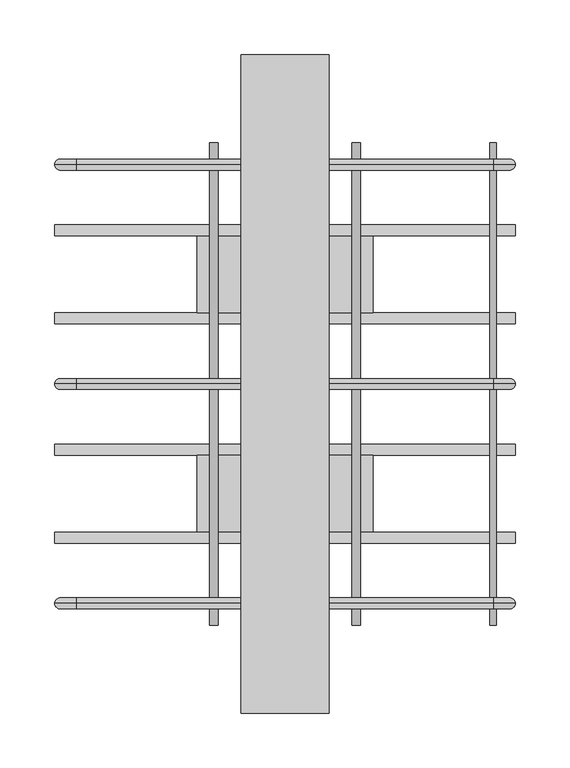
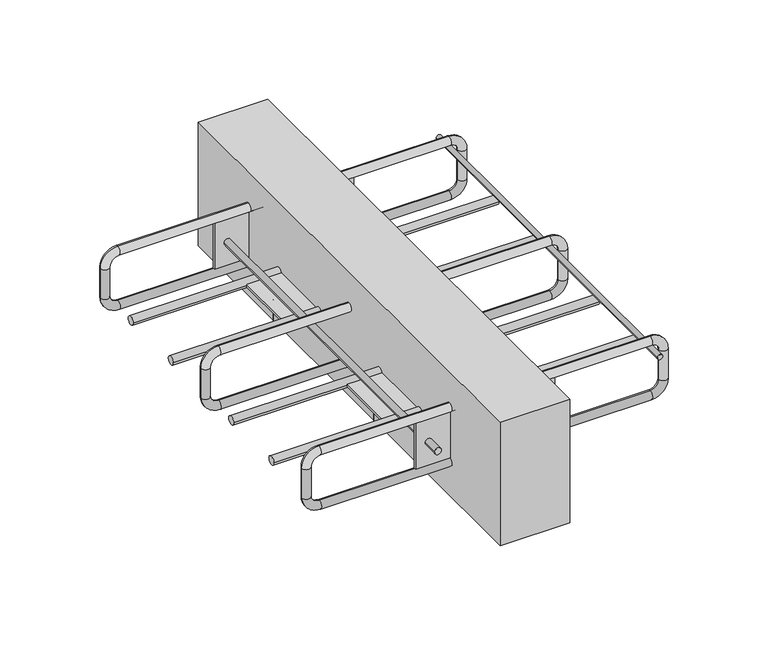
"""IFC4 building model written with IfcOpenShell, lengths in millimetres: proxy geometry, ACINOXplus_Typenreihe_UL-OL : OL+ S2."""

from ifc_helpers import new_model, si_unit, point, frame, frame_2d, origin, place, context, project, spatial, polyline, circle_curve, ellipse_curve, trimmed, segment, composite_curve, outline, extrude, source, transform, mapped, element, save
from ifc_brep_helpers import cylinder_surface, revolved_surface, advanced_brep


def generic_models_a2db3ab6(model_context):
    return source(origin(), model_context, "Body", "SolidModel", [
        extrude(outline(composite_curve([segment(trimmed(circle_curve(frame_2d((-50.0, 190.0)), 3.0), [point((-50.0, 193.0))], [point((-50.0, 187.0))], False, "CARTESIAN"), True, "CONTINUOUS"), segment(trimmed(circle_curve(frame_2d((-50.0, 190.0)), 3.0), [point((-50.0, 187.0))], [point((-50.0, 193.0))], False, "CARTESIAN"), True, "CONTINUOUS")], self_intersect=False)), frame((0.0, -220.0, 0.0), z_axis=(0.0, 1.0, 0.0), x_axis=(0.0, 0.0, 1.0)), (0.0, 0.0, 1.0), 440.0),
        extrude(outline(composite_curve([segment(trimmed(circle_curve(frame_2d((-140.0, -84.0)), 5.0), [point((-145.0, -84.0))], [point((-135.0, -84.0))], False, "CARTESIAN"), True, "CONTINUOUS"), segment(trimmed(circle_curve(frame_2d((-140.0, -84.0)), 5.0), [point((-135.0, -84.0))], [point((-145.0, -84.0))], False, "CARTESIAN"), True, "CONTINUOUS")], self_intersect=False)), frame((-210.0, 0.0, 0.0), z_axis=(1.0, 0.0, 0.0), x_axis=(0.0, 1.0, 0.0)), (0.0, 0.0, 1.0), 420.0),
        extrude(outline(composite_curve([segment(trimmed(circle_curve(frame_2d((-60.0, -84.0)), 5.0), [point((-65.0, -84.0))], [point((-55.0, -84.0))], False, "CARTESIAN"), True, "CONTINUOUS"), segment(trimmed(circle_curve(frame_2d((-60.0, -84.0)), 5.0), [point((-55.0, -84.0))], [point((-65.0, -84.0))], False, "CARTESIAN"), True, "CONTINUOUS")], self_intersect=False)), frame((-210.0, 0.0, 0.0), z_axis=(1.0, 0.0, 0.0), x_axis=(0.0, 1.0, 0.0)), (0.0, 0.0, 1.0), 420.0),
        extrude(outline(composite_curve([segment(trimmed(circle_curve(frame_2d((-65.0, -100.0)), 4.0), [point((-69.0, -100.0))], [point((-61.0, -100.0))], False, "CARTESIAN"), True, "CONTINUOUS"), segment(trimmed(circle_curve(frame_2d((-65.0, -100.0)), 4.0), [point((-61.0, -100.0))], [point((-69.0, -100.0))], False, "CARTESIAN"), True, "CONTINUOUS")], self_intersect=False)), frame((0.0, 0.0, -112.0), z_axis=(0.0, 0.0, 1.0), x_axis=(1.0, 0.0, 0.0)), (0.0, 0.0, 1.0), 26.5),
        extrude(outline(composite_curve([segment(trimmed(circle_curve(frame_2d((65.0, -100.0)), 4.0), [point((61.0, -100.0))], [point((69.0, -100.0))], False, "CARTESIAN"), True, "CONTINUOUS"), segment(trimmed(circle_curve(frame_2d((65.0, -100.0)), 4.0), [point((69.0, -100.0))], [point((61.0, -100.0))], False, "CARTESIAN"), True, "CONTINUOUS")], self_intersect=False)), frame((0.0, 0.0, -112.0), z_axis=(0.0, 0.0, 1.0), x_axis=(1.0, 0.0, 0.0)), (0.0, 0.0, 1.0), 26.5),
        extrude(outline(polyline([(80.0, -65.0), (80.0, -135.0), (-80.0, -135.0), (-80.0, -65.0), (80.0, -65.0)])), frame((0.0, 0.0, -85.5), z_axis=(0.0, 0.0, 1.0), x_axis=(1.0, 0.0, 0.0)), (0.0, 0.0, 1.0), 3.0),
        extrude(outline(composite_curve([segment(trimmed(circle_curve(frame_2d((60.0, -84.0)), 5.0), [point((55.0, -84.0))], [point((65.0, -84.0))], False, "CARTESIAN"), True, "CONTINUOUS"), segment(trimmed(circle_curve(frame_2d((60.0, -84.0)), 5.0), [point((65.0, -84.0))], [point((55.0, -84.0))], False, "CARTESIAN"), True, "CONTINUOUS")], self_intersect=False)), frame((-210.0, 0.0, 0.0), z_axis=(1.0, 0.0, 0.0), x_axis=(0.0, 1.0, 0.0)), (0.0, 0.0, 1.0), 420.0),
        extrude(outline(composite_curve([segment(trimmed(circle_curve(frame_2d((140.0, -84.0)), 5.0), [point((135.0, -84.0))], [point((145.0, -84.0))], False, "CARTESIAN"), True, "CONTINUOUS"), segment(trimmed(circle_curve(frame_2d((140.0, -84.0)), 5.0), [point((145.0, -84.0))], [point((135.0, -84.0))], False, "CARTESIAN"), True, "CONTINUOUS")], self_intersect=False)), frame((-210.0, 0.0, 0.0), z_axis=(1.0, 0.0, 0.0), x_axis=(0.0, 1.0, 0.0)), (0.0, 0.0, 1.0), 420.0),
        extrude(outline(composite_curve([segment(trimmed(circle_curve(frame_2d((-65.0, 100.0)), 4.0), [point((-69.0, 100.0))], [point((-61.0, 100.0))], False, "CARTESIAN"), True, "CONTINUOUS"), segment(trimmed(circle_curve(frame_2d((-65.0, 100.0)), 4.0), [point((-61.0, 100.0))], [point((-69.0, 100.0))], False, "CARTESIAN"), True, "CONTINUOUS")], self_intersect=False)), frame((0.0, 0.0, -112.0), z_axis=(0.0, 0.0, 1.0), x_axis=(1.0, 0.0, 0.0)), (0.0, 0.0, 1.0), 26.5),
        extrude(outline(composite_curve([segment(trimmed(circle_curve(frame_2d((65.0, 100.0)), 4.0), [point((61.0, 100.0))], [point((69.0, 100.0))], False, "CARTESIAN"), True, "CONTINUOUS"), segment(trimmed(circle_curve(frame_2d((65.0, 100.0)), 4.0), [point((69.0, 100.0))], [point((61.0, 100.0))], False, "CARTESIAN"), True, "CONTINUOUS")], self_intersect=False)), frame((0.0, 0.0, -112.0), z_axis=(0.0, 0.0, 1.0), x_axis=(1.0, 0.0, 0.0)), (0.0, 0.0, 1.0), 26.5),
        extrude(outline(polyline([(80.0, 135.0), (80.0, 65.0), (-80.0, 65.0), (-80.0, 135.0), (80.0, 135.0)])), frame((0.0, 0.0, -85.5), z_axis=(0.0, 0.0, 1.0), x_axis=(1.0, 0.0, 0.0)), (0.0, 0.0, 1.0), 3.0),
        extrude(outline(polyline([(40.0, 300.0), (40.0, -300.0), (-40.0, -300.0), (-40.0, 300.0), (40.0, 300.0)])), frame((0.0, 0.0, -150.0), z_axis=(0.0, 0.0, 1.0), x_axis=(1.0, 0.0, 0.0)), (0.0, 0.0, 1.0), 150.0),
        extrude(outline(composite_curve([segment(trimmed(circle_curve(frame_2d((-75.0, -65.0)), 4.0), [point((-75.0, -61.0))], [point((-75.0, -69.0))], False, "CARTESIAN"), True, "CONTINUOUS"), segment(trimmed(circle_curve(frame_2d((-75.0, -65.0)), 4.0), [point((-75.0, -69.0))], [point((-75.0, -61.0))], False, "CARTESIAN"), True, "CONTINUOUS")], self_intersect=False)), frame((0.0, -220.0, 0.0), z_axis=(0.0, 1.0, 0.0), x_axis=(0.0, 0.0, 1.0)), (0.0, 0.0, 1.0), 440.0),
        extrude(outline(composite_curve([segment(trimmed(circle_curve(frame_2d((-75.0, 65.0)), 4.0), [point((-75.0, 69.0))], [point((-75.0, 61.0))], False, "CARTESIAN"), True, "CONTINUOUS"), segment(trimmed(circle_curve(frame_2d((-75.0, 65.0)), 4.0), [point((-75.0, 61.0))], [point((-75.0, 69.0))], False, "CARTESIAN"), True, "CONTINUOUS")], self_intersect=False)), frame((0.0, -220.0, 0.0), z_axis=(0.0, 1.0, 0.0), x_axis=(0.0, 0.0, 1.0)), (0.0, 0.0, 1.0), 440.0),
        extrude(outline(polyline([(80.0, -198.5), (80.0, -201.5), (-80.0, -201.5), (-80.0, -198.5), (80.0, -198.5)])), frame((0.0, 0.0, -103.0), z_axis=(0.0, 0.0, 1.0), x_axis=(1.0, 0.0, 0.0)), (0.0, 0.0, 1.0), 56.0),
        extrude(outline(polyline([(80.0, 201.5), (80.0, 198.5), (-80.0, 198.5), (-80.0, 201.5), (80.0, 201.5)])), frame((0.0, 0.0, -103.0), z_axis=(0.0, 0.0, 1.0), x_axis=(1.0, 0.0, 0.0)), (0.0, 0.0, 1.0), 56.0),
        advanced_brep(
        [(190.0, 0.0, -47.0), (190.0, 0.0, -37.0), (-190.0, 0.0, -37.0), (-190.0, 0.0, -47.0), (-200.0, 0.0, -57.0), (-210.0, 0.0, -57.0), (-210.0, 0.0, -93.0), (-200.0, 0.0, -93.0), (-190.0, 0.0, -103.0), (-190.0, 0.0, -113.0), (190.0, 0.0, -113.0), (190.0, 0.0, -103.0), (200.0, 0.0, -93.0), (210.0, 0.0, -93.0), (210.0, 0.0, -57.0), (200.0, 0.0, -57.0)],
        [
            (0, 1, circle_curve(frame((190.0, 0.0, -42.0), z_axis=(-1.0, 0.0, 0.0), x_axis=(0.0, 0.0, -1.0)), 5.0)),
            (1, 2),
            (2, 3, circle_curve(frame((-190.0, 0.0, -42.0), z_axis=(1.0, 0.0, 0.0), x_axis=(0.0, 0.0, -1.0)), 5.0)),
            (3, 0),
            (1, 0, circle_curve(frame((190.0, 0.0, -42.0), z_axis=(-1.0, 0.0, 0.0), x_axis=(0.0, 0.0, -1.0)), 5.0)),
            (3, 2, circle_curve(frame((-190.0, 0.0, -42.0), z_axis=(1.0, 0.0, 0.0), x_axis=(0.0, 0.0, -1.0)), 5.0)),
            (4, 3, circle_curve(frame((-190.0, 0.0, -57.0), z_axis=(0.0, 1.0, 0.0), x_axis=(0.0, 0.0, 1.0)), 10.0)),
            (2, 5, circle_curve(frame((-190.0, 0.0, -57.0), z_axis=(0.0, -1.0, 0.0), x_axis=(0.0, 0.0, 1.0)), 20.0)),
            (5, 4, circle_curve(frame((-205.0, 0.0, -57.0), z_axis=(0.0, 0.0, 1.0), x_axis=(1.0, 0.0, 0.0)), 5.0)),
            (4, 5, circle_curve(frame((-205.0, 0.0, -57.0), z_axis=(0.0, 0.0, 1.0), x_axis=(1.0, 0.0, 0.0)), 5.0)),
            (5, 6),
            (6, 7, circle_curve(frame((-205.0, 0.0, -93.0), z_axis=(0.0, 0.0, 1.0), x_axis=(1.0, 0.0, 0.0)), 5.0)),
            (7, 4),
            (7, 6, circle_curve(frame((-205.0, 0.0, -93.0), z_axis=(0.0, 0.0, 1.0), x_axis=(1.0, 0.0, 0.0)), 5.0)),
            (8, 7, circle_curve(frame((-190.0, 0.0, -93.0), z_axis=(0.0, 1.0, 0.0), x_axis=(-1.0, 0.0, 0.0)), 10.0)),
            (6, 9, circle_curve(frame((-190.0, 0.0, -93.0), z_axis=(0.0, -1.0, 0.0), x_axis=(-1.0, 0.0, 0.0)), 20.0)),
            (9, 8, circle_curve(frame((-190.0, 0.0, -108.0), z_axis=(-1.0, 0.0, 0.0), x_axis=(0.0, 0.0, 1.0)), 5.0)),
            (8, 9, circle_curve(frame((-190.0, 0.0, -108.0), z_axis=(-1.0, 0.0, 0.0), x_axis=(0.0, 0.0, 1.0)), 5.0)),
            (9, 10),
            (10, 11, circle_curve(frame((190.0, 0.0, -108.0), z_axis=(-1.0, 0.0, 0.0), x_axis=(0.0, 0.0, 1.0)), 5.0)),
            (11, 8),
            (11, 10, circle_curve(frame((190.0, 0.0, -108.0), z_axis=(-1.0, 0.0, 0.0), x_axis=(0.0, 0.0, 1.0)), 5.0)),
            (12, 11, circle_curve(frame((190.0, 0.0, -93.0), z_axis=(0.0, 1.0, 0.0), x_axis=(0.0, 0.0, -1.0)), 10.0)),
            (10, 13, circle_curve(frame((190.0, 0.0, -93.0), z_axis=(0.0, -1.0, 0.0), x_axis=(0.0, 0.0, -1.0)), 20.0)),
            (13, 12, circle_curve(frame((205.0, 0.0, -93.0), z_axis=(0.0, 0.0, -1.0), x_axis=(-1.0, 0.0, 0.0)), 5.0)),
            (12, 13, circle_curve(frame((205.0, 0.0, -93.0), z_axis=(0.0, 0.0, -1.0), x_axis=(-1.0, 0.0, 0.0)), 5.0)),
            (13, 14),
            (14, 15, circle_curve(frame((205.0, 0.0, -57.0), z_axis=(0.0, 0.0, -1.0), x_axis=(-1.0, 0.0, 0.0)), 5.0)),
            (15, 12),
            (15, 14, circle_curve(frame((205.0, 0.0, -57.0), z_axis=(0.0, 0.0, -1.0), x_axis=(-1.0, 0.0, 0.0)), 5.0)),
            (0, 15, circle_curve(frame((190.0, 0.0, -57.0), z_axis=(0.0, 1.0, 0.0), x_axis=(1.0, 0.0, 0.0)), 10.0)),
            (14, 1, circle_curve(frame((190.0, 0.0, -57.0), z_axis=(0.0, -1.0, 0.0), x_axis=(1.0, 0.0, 0.0)), 20.0)),
        ],
        [
            cylinder_surface(frame((190.0, 0.0, -42.0), z_axis=(1.0, 0.0, 0.0), x_axis=(0.0, 0.0, -1.0)), 5.0),
            revolved_surface(trimmed(ellipse_curve(frame((-190.0, 0.0, -42.0), z_axis=(1.0, 0.0, 0.0), x_axis=(0.0, 0.0, -1.0)), 5.0, 5.0), [point((-190.0, 0.0, -37.0))], [point((-190.0, 0.0, -47.0))], True, "CARTESIAN"), (-190.0, 0.0, -57.0), (0.0, -1.0, 0.0)),
            revolved_surface(trimmed(ellipse_curve(frame((-190.0, 0.0, -42.0), z_axis=(1.0, 0.0, 0.0), x_axis=(0.0, 0.0, -1.0)), 5.0, 5.0), [point((-190.0, 0.0, -47.0))], [point((-190.0, 0.0, -37.0))], True, "CARTESIAN"), (-190.0, 0.0, -57.0), (0.0, -1.0, 0.0)),
            cylinder_surface(frame((-205.0, 0.0, -57.0), z_axis=(0.0, 0.0, 1.0), x_axis=(1.0, 0.0, 0.0)), 5.0),
            revolved_surface(trimmed(ellipse_curve(frame((-205.0, 0.0, -93.0), z_axis=(0.0, 0.0, 1.0), x_axis=(1.0, 0.0, 0.0)), 5.0, 5.0), [point((-210.0, 0.0, -93.0))], [point((-200.0, 0.0, -93.0))], True, "CARTESIAN"), (-190.0, 0.0, -93.0), (0.0, -1.0, 0.0)),
            revolved_surface(trimmed(ellipse_curve(frame((-205.0, 0.0, -93.0), z_axis=(0.0, 0.0, 1.0), x_axis=(1.0, 0.0, 0.0)), 5.0, 5.0), [point((-200.0, 0.0, -93.0))], [point((-210.0, 0.0, -93.0))], True, "CARTESIAN"), (-190.0, 0.0, -93.0), (0.0, -1.0, 0.0)),
            cylinder_surface(frame((-190.0, 0.0, -108.0), z_axis=(-1.0, 0.0, 0.0), x_axis=(0.0, 0.0, 1.0)), 5.0),
            revolved_surface(trimmed(ellipse_curve(frame((190.0, 0.0, -108.0), z_axis=(-1.0, 0.0, 0.0), x_axis=(0.0, 0.0, 1.0)), 5.0, 5.0), [point((190.0, 0.0, -113.0))], [point((190.0, 0.0, -103.0))], True, "CARTESIAN"), (190.0, 0.0, -93.0), (0.0, -1.0, 0.0)),
            revolved_surface(trimmed(ellipse_curve(frame((190.0, 0.0, -108.0), z_axis=(-1.0, 0.0, 0.0), x_axis=(0.0, 0.0, 1.0)), 5.0, 5.0), [point((190.0, 0.0, -103.0))], [point((190.0, 0.0, -113.0))], True, "CARTESIAN"), (190.0, 0.0, -93.0), (0.0, -1.0, 0.0)),
            cylinder_surface(frame((205.0, 0.0, -93.0), z_axis=(0.0, 0.0, -1.0), x_axis=(-1.0, 0.0, 0.0)), 5.0),
            revolved_surface(trimmed(ellipse_curve(frame((205.0, 0.0, -57.0), z_axis=(0.0, 0.0, -1.0), x_axis=(-1.0, 0.0, 0.0)), 5.0, 5.0), [point((210.0, 0.0, -57.0))], [point((200.0, 0.0, -57.0))], True, "CARTESIAN"), (190.0, 0.0, -57.0), (0.0, -1.0, 0.0)),
            revolved_surface(trimmed(ellipse_curve(frame((205.0, 0.0, -57.0), z_axis=(0.0, 0.0, -1.0), x_axis=(-1.0, 0.0, 0.0)), 5.0, 5.0), [point((200.0, 0.0, -57.0))], [point((210.0, 0.0, -57.0))], True, "CARTESIAN"), (190.0, 0.0, -57.0), (0.0, -1.0, 0.0)),
        ],
        [
            (0, [[1, 2, 3, 4]]),
            (0, [[5, -4, 6, -2]]),
            (1, [[7, -3, 8, 9]]),
            (2, [[-8, -6, -7, 10]]),
            (3, [[-9, 11, 12, 13]]),
            (3, [[-10, -13, 14, -11]]),
            (4, [[15, -12, 16, 17]]),
            (5, [[-16, -14, -15, 18]]),
            (6, [[-17, 19, 20, 21]]),
            (6, [[-18, -21, 22, -19]]),
            (7, [[23, -20, 24, 25]]),
            (8, [[-24, -22, -23, 26]]),
            (9, [[-25, 27, 28, 29]]),
            (9, [[-26, -29, 30, -27]]),
            (10, [[31, -28, 32, -1]]),
            (11, [[-32, -30, -31, -5]]),
        ],
    ),
        advanced_brep(
        [(190.0, 200.0, -47.0), (190.0, 200.0, -37.0), (-190.0, 200.0, -37.0), (-190.0, 200.0, -47.0), (-200.0, 200.0, -57.0), (-210.0, 200.0, -57.0), (-210.0, 200.0, -93.0), (-200.0, 200.0, -93.0), (-190.0, 200.0, -103.0), (-190.0, 200.0, -113.0), (190.0, 200.0, -113.0), (190.0, 200.0, -103.0), (200.0, 200.0, -93.0), (210.0, 200.0, -93.0), (210.0, 200.0, -57.0), (200.0, 200.0, -57.0)],
        [
            (0, 1, circle_curve(frame((190.0, 200.0, -42.0), z_axis=(-1.0, 0.0, 0.0), x_axis=(0.0, 0.0, -1.0)), 5.0)),
            (1, 2),
            (2, 3, circle_curve(frame((-190.0, 200.0, -42.0), z_axis=(1.0, 0.0, 0.0), x_axis=(0.0, 0.0, -1.0)), 5.0)),
            (3, 0),
            (1, 0, circle_curve(frame((190.0, 200.0, -42.0), z_axis=(-1.0, 0.0, 0.0), x_axis=(0.0, 0.0, -1.0)), 5.0)),
            (3, 2, circle_curve(frame((-190.0, 200.0, -42.0), z_axis=(1.0, 0.0, 0.0), x_axis=(0.0, 0.0, -1.0)), 5.0)),
            (4, 3, circle_curve(frame((-190.0, 200.0, -57.0), z_axis=(0.0, 1.0, 0.0), x_axis=(0.0, 0.0, 1.0)), 10.0)),
            (2, 5, circle_curve(frame((-190.0, 200.0, -57.0), z_axis=(0.0, -1.0, 0.0), x_axis=(0.0, 0.0, 1.0)), 20.0)),
            (5, 4, circle_curve(frame((-205.0, 200.0, -57.0), z_axis=(0.0, 0.0, 1.0), x_axis=(1.0, 0.0, 0.0)), 5.0)),
            (4, 5, circle_curve(frame((-205.0, 200.0, -57.0), z_axis=(0.0, 0.0, 1.0), x_axis=(1.0, 0.0, 0.0)), 5.0)),
            (5, 6),
            (6, 7, circle_curve(frame((-205.0, 200.0, -93.0), z_axis=(0.0, 0.0, 1.0), x_axis=(1.0, 0.0, 0.0)), 5.0)),
            (7, 4),
            (7, 6, circle_curve(frame((-205.0, 200.0, -93.0), z_axis=(0.0, 0.0, 1.0), x_axis=(1.0, 0.0, 0.0)), 5.0)),
            (8, 7, circle_curve(frame((-190.0, 200.0, -93.0), z_axis=(0.0, 1.0, 0.0), x_axis=(-1.0, 0.0, 0.0)), 10.0)),
            (6, 9, circle_curve(frame((-190.0, 200.0, -93.0), z_axis=(0.0, -1.0, 0.0), x_axis=(-1.0, 0.0, 0.0)), 20.0)),
            (9, 8, circle_curve(frame((-190.0, 200.0, -108.0), z_axis=(-1.0, 0.0, 0.0), x_axis=(0.0, 0.0, 1.0)), 5.0)),
            (8, 9, circle_curve(frame((-190.0, 200.0, -108.0), z_axis=(-1.0, 0.0, 0.0), x_axis=(0.0, 0.0, 1.0)), 5.0)),
            (9, 10),
            (10, 11, circle_curve(frame((190.0, 200.0, -108.0), z_axis=(-1.0, 0.0, 0.0), x_axis=(0.0, 0.0, 1.0)), 5.0)),
            (11, 8),
            (11, 10, circle_curve(frame((190.0, 200.0, -108.0), z_axis=(-1.0, 0.0, 0.0), x_axis=(0.0, 0.0, 1.0)), 5.0)),
            (12, 11, circle_curve(frame((190.0, 200.0, -93.0), z_axis=(0.0, 1.0, 0.0), x_axis=(0.0, 0.0, -1.0)), 10.0)),
            (10, 13, circle_curve(frame((190.0, 200.0, -93.0), z_axis=(0.0, -1.0, 0.0), x_axis=(0.0, 0.0, -1.0)), 20.0)),
            (13, 12, circle_curve(frame((205.0, 200.0, -93.0), z_axis=(0.0, 0.0, -1.0), x_axis=(-1.0, 0.0, 0.0)), 5.0)),
            (12, 13, circle_curve(frame((205.0, 200.0, -93.0), z_axis=(0.0, 0.0, -1.0), x_axis=(-1.0, 0.0, 0.0)), 5.0)),
            (13, 14),
            (14, 15, circle_curve(frame((205.0, 200.0, -57.0), z_axis=(0.0, 0.0, -1.0), x_axis=(-1.0, 0.0, 0.0)), 5.0)),
            (15, 12),
            (15, 14, circle_curve(frame((205.0, 200.0, -57.0), z_axis=(0.0, 0.0, -1.0), x_axis=(-1.0, 0.0, 0.0)), 5.0)),
            (0, 15, circle_curve(frame((190.0, 200.0, -57.0), z_axis=(0.0, 1.0, 0.0), x_axis=(1.0, 0.0, 0.0)), 10.0)),
            (14, 1, circle_curve(frame((190.0, 200.0, -57.0), z_axis=(0.0, -1.0, 0.0), x_axis=(1.0, 0.0, 0.0)), 20.0)),
        ],
        [
            cylinder_surface(frame((190.0, 200.0, -42.0), z_axis=(1.0, 0.0, 0.0), x_axis=(0.0, 0.0, -1.0)), 5.0),
            revolved_surface(trimmed(ellipse_curve(frame((-190.0, 200.0, -42.0), z_axis=(1.0, 0.0, 0.0), x_axis=(0.0, 0.0, -1.0)), 5.0, 5.0), [point((-190.0, 200.0, -37.0))], [point((-190.0, 200.0, -47.0))], True, "CARTESIAN"), (-190.0, 200.0, -57.0), (0.0, -1.0, 0.0)),
            revolved_surface(trimmed(ellipse_curve(frame((-190.0, 200.0, -42.0), z_axis=(1.0, 0.0, 0.0), x_axis=(0.0, 0.0, -1.0)), 5.0, 5.0), [point((-190.0, 200.0, -47.0))], [point((-190.0, 200.0, -37.0))], True, "CARTESIAN"), (-190.0, 200.0, -57.0), (0.0, -1.0, 0.0)),
            cylinder_surface(frame((-205.0, 200.0, -57.0), z_axis=(0.0, 0.0, 1.0), x_axis=(1.0, 0.0, 0.0)), 5.0),
            revolved_surface(trimmed(ellipse_curve(frame((-205.0, 200.0, -93.0), z_axis=(0.0, 0.0, 1.0), x_axis=(1.0, 0.0, 0.0)), 5.0, 5.0), [point((-210.0, 200.0, -93.0))], [point((-200.0, 200.0, -93.0))], True, "CARTESIAN"), (-190.0, 200.0, -93.0), (0.0, -1.0, 0.0)),
            revolved_surface(trimmed(ellipse_curve(frame((-205.0, 200.0, -93.0), z_axis=(0.0, 0.0, 1.0), x_axis=(1.0, 0.0, 0.0)), 5.0, 5.0), [point((-200.0, 200.0, -93.0))], [point((-210.0, 200.0, -93.0))], True, "CARTESIAN"), (-190.0, 200.0, -93.0), (0.0, -1.0, 0.0)),
            cylinder_surface(frame((-190.0, 200.0, -108.0), z_axis=(-1.0, 0.0, 0.0), x_axis=(0.0, 0.0, 1.0)), 5.0),
            revolved_surface(trimmed(ellipse_curve(frame((190.0, 200.0, -108.0), z_axis=(-1.0, 0.0, 0.0), x_axis=(0.0, 0.0, 1.0)), 5.0, 5.0), [point((190.0, 200.0, -113.0))], [point((190.0, 200.0, -103.0))], True, "CARTESIAN"), (190.0, 200.0, -93.0), (0.0, -1.0, 0.0)),
            revolved_surface(trimmed(ellipse_curve(frame((190.0, 200.0, -108.0), z_axis=(-1.0, 0.0, 0.0), x_axis=(0.0, 0.0, 1.0)), 5.0, 5.0), [point((190.0, 200.0, -103.0))], [point((190.0, 200.0, -113.0))], True, "CARTESIAN"), (190.0, 200.0, -93.0), (0.0, -1.0, 0.0)),
            cylinder_surface(frame((205.0, 200.0, -93.0), z_axis=(0.0, 0.0, -1.0), x_axis=(-1.0, 0.0, 0.0)), 5.0),
            revolved_surface(trimmed(ellipse_curve(frame((205.0, 200.0, -57.0), z_axis=(0.0, 0.0, -1.0), x_axis=(-1.0, 0.0, 0.0)), 5.0, 5.0), [point((210.0, 200.0, -57.0))], [point((200.0, 200.0, -57.0))], True, "CARTESIAN"), (190.0, 200.0, -57.0), (0.0, -1.0, 0.0)),
            revolved_surface(trimmed(ellipse_curve(frame((205.0, 200.0, -57.0), z_axis=(0.0, 0.0, -1.0), x_axis=(-1.0, 0.0, 0.0)), 5.0, 5.0), [point((200.0, 200.0, -57.0))], [point((210.0, 200.0, -57.0))], True, "CARTESIAN"), (190.0, 200.0, -57.0), (0.0, -1.0, 0.0)),
        ],
        [
            (0, [[1, 2, 3, 4]]),
            (0, [[5, -4, 6, -2]]),
            (1, [[7, -3, 8, 9]]),
            (2, [[-8, -6, -7, 10]]),
            (3, [[-9, 11, 12, 13]]),
            (3, [[-10, -13, 14, -11]]),
            (4, [[15, -12, 16, 17]]),
            (5, [[-16, -14, -15, 18]]),
            (6, [[-17, 19, 20, 21]]),
            (6, [[-18, -21, 22, -19]]),
            (7, [[23, -20, 24, 25]]),
            (8, [[-24, -22, -23, 26]]),
            (9, [[-25, 27, 28, 29]]),
            (9, [[-26, -29, 30, -27]]),
            (10, [[31, -28, 32, -1]]),
            (11, [[-32, -30, -31, -5]]),
        ],
    ),
        advanced_brep(
        [(190.0, -200.0, -47.0), (190.0, -200.0, -37.0), (-190.0, -200.0, -37.0), (-190.0, -200.0, -47.0), (-200.0, -200.0, -57.0), (-210.0, -200.0, -57.0), (-210.0, -200.0, -93.0), (-200.0, -200.0, -93.0), (-190.0, -200.0, -103.0), (-190.0, -200.0, -113.0), (190.0, -200.0, -113.0), (190.0, -200.0, -103.0), (200.0, -200.0, -93.0), (210.0, -200.0, -93.0), (210.0, -200.0, -57.0), (200.0, -200.0, -57.0)],
        [
            (0, 1, circle_curve(frame((190.0, -200.0, -42.0), z_axis=(-1.0, 0.0, 0.0), x_axis=(0.0, 0.0, -1.0)), 5.0)),
            (1, 2),
            (2, 3, circle_curve(frame((-190.0, -200.0, -42.0), z_axis=(1.0, 0.0, 0.0), x_axis=(0.0, 0.0, -1.0)), 5.0)),
            (3, 0),
            (1, 0, circle_curve(frame((190.0, -200.0, -42.0), z_axis=(-1.0, 0.0, 0.0), x_axis=(0.0, 0.0, -1.0)), 5.0)),
            (3, 2, circle_curve(frame((-190.0, -200.0, -42.0), z_axis=(1.0, 0.0, 0.0), x_axis=(0.0, 0.0, -1.0)), 5.0)),
            (4, 3, circle_curve(frame((-190.0, -200.0, -57.0), z_axis=(0.0, 1.0, 0.0), x_axis=(0.0, 0.0, 1.0)), 10.0)),
            (2, 5, circle_curve(frame((-190.0, -200.0, -57.0), z_axis=(0.0, -1.0, 0.0), x_axis=(0.0, 0.0, 1.0)), 20.0)),
            (5, 4, circle_curve(frame((-205.0, -200.0, -57.0), z_axis=(0.0, 0.0, 1.0), x_axis=(1.0, 0.0, 0.0)), 5.0)),
            (4, 5, circle_curve(frame((-205.0, -200.0, -57.0), z_axis=(0.0, 0.0, 1.0), x_axis=(1.0, 0.0, 0.0)), 5.0)),
            (5, 6),
            (6, 7, circle_curve(frame((-205.0, -200.0, -93.0), z_axis=(0.0, 0.0, 1.0), x_axis=(1.0, 0.0, 0.0)), 5.0)),
            (7, 4),
            (7, 6, circle_curve(frame((-205.0, -200.0, -93.0), z_axis=(0.0, 0.0, 1.0), x_axis=(1.0, 0.0, 0.0)), 5.0)),
            (8, 7, circle_curve(frame((-190.0, -200.0, -93.0), z_axis=(0.0, 1.0, 0.0), x_axis=(-1.0, 0.0, 0.0)), 10.0)),
            (6, 9, circle_curve(frame((-190.0, -200.0, -93.0), z_axis=(0.0, -1.0, 0.0), x_axis=(-1.0, 0.0, 0.0)), 20.0)),
            (9, 8, circle_curve(frame((-190.0, -200.0, -108.0), z_axis=(-1.0, 0.0, 0.0), x_axis=(0.0, 0.0, 1.0)), 5.0)),
            (8, 9, circle_curve(frame((-190.0, -200.0, -108.0), z_axis=(-1.0, 0.0, 0.0), x_axis=(0.0, 0.0, 1.0)), 5.0)),
            (9, 10),
            (10, 11, circle_curve(frame((190.0, -200.0, -108.0), z_axis=(-1.0, 0.0, 0.0), x_axis=(0.0, 0.0, 1.0)), 5.0)),
            (11, 8),
            (11, 10, circle_curve(frame((190.0, -200.0, -108.0), z_axis=(-1.0, 0.0, 0.0), x_axis=(0.0, 0.0, 1.0)), 5.0)),
            (12, 11, circle_curve(frame((190.0, -200.0, -93.0), z_axis=(0.0, 1.0, 0.0), x_axis=(0.0, 0.0, -1.0)), 10.0)),
            (10, 13, circle_curve(frame((190.0, -200.0, -93.0), z_axis=(0.0, -1.0, 0.0), x_axis=(0.0, 0.0, -1.0)), 20.0)),
            (13, 12, circle_curve(frame((205.0, -200.0, -93.0), z_axis=(0.0, 0.0, -1.0), x_axis=(-1.0, 0.0, 0.0)), 5.0)),
            (12, 13, circle_curve(frame((205.0, -200.0, -93.0), z_axis=(0.0, 0.0, -1.0), x_axis=(-1.0, 0.0, 0.0)), 5.0)),
            (13, 14),
            (14, 15, circle_curve(frame((205.0, -200.0, -57.0), z_axis=(0.0, 0.0, -1.0), x_axis=(-1.0, 0.0, 0.0)), 5.0)),
            (15, 12),
            (15, 14, circle_curve(frame((205.0, -200.0, -57.0), z_axis=(0.0, 0.0, -1.0), x_axis=(-1.0, 0.0, 0.0)), 5.0)),
            (0, 15, circle_curve(frame((190.0, -200.0, -57.0), z_axis=(0.0, 1.0, 0.0), x_axis=(1.0, 0.0, 0.0)), 10.0)),
            (14, 1, circle_curve(frame((190.0, -200.0, -57.0), z_axis=(0.0, -1.0, 0.0), x_axis=(1.0, 0.0, 0.0)), 20.0)),
        ],
        [
            cylinder_surface(frame((190.0, -200.0, -42.0), z_axis=(1.0, 0.0, 0.0), x_axis=(0.0, 0.0, -1.0)), 5.0),
            revolved_surface(trimmed(ellipse_curve(frame((-190.0, -200.0, -42.0), z_axis=(1.0, 0.0, 0.0), x_axis=(0.0, 0.0, -1.0)), 5.0, 5.0), [point((-190.0, -200.0, -37.0))], [point((-190.0, -200.0, -47.0))], True, "CARTESIAN"), (-190.0, -200.0, -57.0), (0.0, -1.0, 0.0)),
            revolved_surface(trimmed(ellipse_curve(frame((-190.0, -200.0, -42.0), z_axis=(1.0, 0.0, 0.0), x_axis=(0.0, 0.0, -1.0)), 5.0, 5.0), [point((-190.0, -200.0, -47.0))], [point((-190.0, -200.0, -37.0))], True, "CARTESIAN"), (-190.0, -200.0, -57.0), (0.0, -1.0, 0.0)),
            cylinder_surface(frame((-205.0, -200.0, -57.0), z_axis=(0.0, 0.0, 1.0), x_axis=(1.0, 0.0, 0.0)), 5.0),
            revolved_surface(trimmed(ellipse_curve(frame((-205.0, -200.0, -93.0), z_axis=(0.0, 0.0, 1.0), x_axis=(1.0, 0.0, 0.0)), 5.0, 5.0), [point((-210.0, -200.0, -93.0))], [point((-200.0, -200.0, -93.0))], True, "CARTESIAN"), (-190.0, -200.0, -93.0), (0.0, -1.0, 0.0)),
            revolved_surface(trimmed(ellipse_curve(frame((-205.0, -200.0, -93.0), z_axis=(0.0, 0.0, 1.0), x_axis=(1.0, 0.0, 0.0)), 5.0, 5.0), [point((-200.0, -200.0, -93.0))], [point((-210.0, -200.0, -93.0))], True, "CARTESIAN"), (-190.0, -200.0, -93.0), (0.0, -1.0, 0.0)),
            cylinder_surface(frame((-190.0, -200.0, -108.0), z_axis=(-1.0, 0.0, 0.0), x_axis=(0.0, 0.0, 1.0)), 5.0),
            revolved_surface(trimmed(ellipse_curve(frame((190.0, -200.0, -108.0), z_axis=(-1.0, 0.0, 0.0), x_axis=(0.0, 0.0, 1.0)), 5.0, 5.0), [point((190.0, -200.0, -113.0))], [point((190.0, -200.0, -103.0))], True, "CARTESIAN"), (190.0, -200.0, -93.0), (0.0, -1.0, 0.0)),
            revolved_surface(trimmed(ellipse_curve(frame((190.0, -200.0, -108.0), z_axis=(-1.0, 0.0, 0.0), x_axis=(0.0, 0.0, 1.0)), 5.0, 5.0), [point((190.0, -200.0, -103.0))], [point((190.0, -200.0, -113.0))], True, "CARTESIAN"), (190.0, -200.0, -93.0), (0.0, -1.0, 0.0)),
            cylinder_surface(frame((205.0, -200.0, -93.0), z_axis=(0.0, 0.0, -1.0), x_axis=(-1.0, 0.0, 0.0)), 5.0),
            revolved_surface(trimmed(ellipse_curve(frame((205.0, -200.0, -57.0), z_axis=(0.0, 0.0, -1.0), x_axis=(-1.0, 0.0, 0.0)), 5.0, 5.0), [point((210.0, -200.0, -57.0))], [point((200.0, -200.0, -57.0))], True, "CARTESIAN"), (190.0, -200.0, -57.0), (0.0, -1.0, 0.0)),
            revolved_surface(trimmed(ellipse_curve(frame((205.0, -200.0, -57.0), z_axis=(0.0, 0.0, -1.0), x_axis=(-1.0, 0.0, 0.0)), 5.0, 5.0), [point((200.0, -200.0, -57.0))], [point((210.0, -200.0, -57.0))], True, "CARTESIAN"), (190.0, -200.0, -57.0), (0.0, -1.0, 0.0)),
        ],
        [
            (0, [[1, 2, 3, 4]]),
            (0, [[5, -4, 6, -2]]),
            (1, [[7, -3, 8, 9]]),
            (2, [[-8, -6, -7, 10]]),
            (3, [[-9, 11, 12, 13]]),
            (3, [[-10, -13, 14, -11]]),
            (4, [[15, -12, 16, 17]]),
            (5, [[-16, -14, -15, 18]]),
            (6, [[-17, 19, 20, 21]]),
            (6, [[-18, -21, 22, -19]]),
            (7, [[23, -20, 24, 25]]),
            (8, [[-24, -22, -23, 26]]),
            (9, [[-25, 27, 28, 29]]),
            (9, [[-26, -29, 30, -27]]),
            (10, [[31, -28, 32, -1]]),
            (11, [[-32, -30, -31, -5]]),
        ],
    ),
    ])


if __name__ == "__main__":
    model = new_model("IFC4")
    model_context = context("Model", 3, world=origin())
    ifc_project = project(units=[si_unit("LENGTHUNIT", "METRE", prefix="MILLI")], contexts=[model_context])
    site = spatial("IfcSite", under=ifc_project)
    building = spatial("IfcBuilding", under=site)
    placement = place(None, origin())
    generic_models_shape = generic_models_a2db3ab6(model_context)
    element("IfcBuildingElementProxy", 1, Name="ACINOXplus_Typenreihe_UL-OL : OL+ S2", ObjectType="ACINOXplus_Typenreihe_UL-OL : OL+ S2", at=placement, inside=building, context=model_context, shape_type="MappedRepresentation", body=[
        mapped(generic_models_shape, transform((0.0, 0.0, 0.0), x_axis=(1.0, 0.0, 0.0), y_axis=(0.0, 1.0, 0.0), z_axis=(0.0, 0.0, 1.0))),
    ])
    save(model, "model.ifc")
